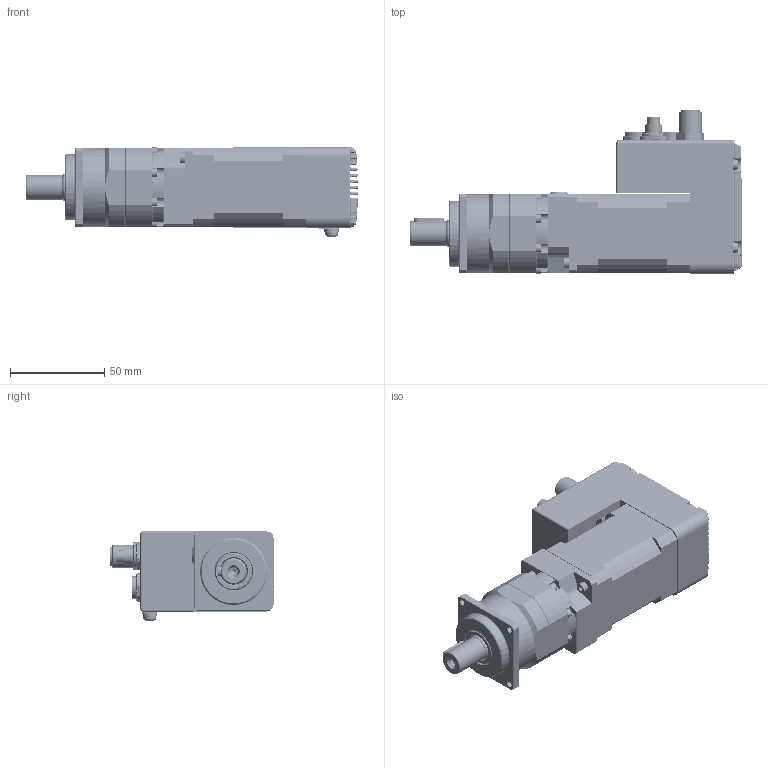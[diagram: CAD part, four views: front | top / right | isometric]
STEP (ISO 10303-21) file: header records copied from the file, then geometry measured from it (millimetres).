
FILE_DESCRIPTION (( 'STEP AP203' ), '1' );
FILE_NAME ('P11F-MO-042-05-R01.STEP', '2020-04-22T01:40:41', ( '' ), ( '' ), 'SwSTEP 2.0', 'SolidWorks 2018', '' );
FILE_SCHEMA (( 'CONFIG_CONTROL_DESIGN' ));
Length unit declared in the file: millimetre
Products named in the file (34): 42EC-PCB3-01; pan cross head_ks_KS 1023 PC- M3 x 25-N; _SH-7050A_body; pan cross head_ks_KS 1023 PC- M3 x 20-N; P11F-MO-042-05-R01; ST42 1ST_ル遽; pan cross head_ks_KS 1023 PC- M4 x 6-N; M119-EC-042-03-R00; 42EC-PCB2-01; spring lock washer_ks_KS 1324 - M3; 877601016; M11D-EC-042-01-R01; 42EC-PCB4-03; KMG; 86_1031_1100_00012-1; SH-7050TA; 09-0408-30-03(鱔褐)-1; 20PS-JMCS-G-1B-TF(N); 目池磐-家南-4P(傈盔)_荐 (09-0411-30-04)-1; 86_1031_1100_00012-2; small circular plain washer_jis_JIS B 1256 Small circular 4; socket head cap screw_ks_KS 1003 - M3 x 8 x 8-N; 目池磐-家南-4P(傈盔)_荐 (09-0411-30-04)-2; M117-MO-042-04-R01_湀_; 20R-JMCS-G-B-TF(NSA); 791091004; 42EC-PCB5-03; spring lock washer_2_jis_JIS B 1251 No.2 4; 42陝 衛お; 09-0408-30-03(鱔褐)-2; plain washer small grade a_iso_Washer ISO 7092 - 3; sams; M119-EC-042-01-R00; _SH-700-Without knob (Minus slot)
Assembly tree (49 placements, depth 3):
  P11F-MO-042-05-R01
    pan cross head_ks_KS 1023 PC- M3 x 20-N  x2
    pan cross head_ks_KS 1023 PC- M3 x 25-N  x2
    42EC-PCB5-03
    M119-EC-042-01-R00
    M119-EC-042-03-R00
    42EC-PCB2-01
    86_1031_1100_00012-1
    86_1031_1100_00012-2
    09-0408-30-03(鱔褐)-1  x2
    09-0408-30-03(鱔褐)-2  x2
    目池磐-家南-4P(傈盔)_荐 (09-0411-30-04)-1
    目池磐-家南-4P(傈盔)_荐 (09-0411-30-04)-2
    42EC-PCB4-03
    20PS-JMCS-G-1B-TF(N)  x2
    20R-JMCS-G-B-TF(NSA)  x2
    42EC-PCB3-01
    791091004  x2
    877601016  x2
    KMG
    M117-MO-042-04-R01_湀_
    M11D-EC-042-01-R01
    plain washer small grade a_iso_Washer ISO 7092 - 3  x4
    spring lock washer_ks_KS 1324 - M3  x4
    SH-7050TA  x2
      _SH-7050A_body
      _SH-700-Without knob (Minus slot)
    ST42 1ST_ル遽
    socket head cap screw_ks_KS 1003 - M3 x 8 x 8-N  x2
    42陝 衛お
    sams
      small circular plain washer_jis_JIS B 1256 Small circular 4
      spring lock washer_2_jis_JIS B 1251 No.2 4
      pan cross head_ks_KS 1023 PC- M4 x 6-N
Bounding box: 176.1 x 87.1 x 47.84 mm (x, y, z)
Volume: 253853 mm3; surface area: 104659.2 mm2
Topology: 49 solids, 54 shells, 8516 faces, 23019 edges, 14798 vertices
Faces by surface type: plane 6023, cylinder 1560, cone 412, bspline 403, sphere 62, torus 56
Entity records: 180421 total; most frequent: CARTESIAN_POINT 43222, ORIENTED_EDGE 28660, DIRECTION 26431, EDGE_CURVE 14330, LINE 10275, VECTOR 10275, VERTEX_POINT 9194, AXIS2_PLACEMENT_3D 8078
